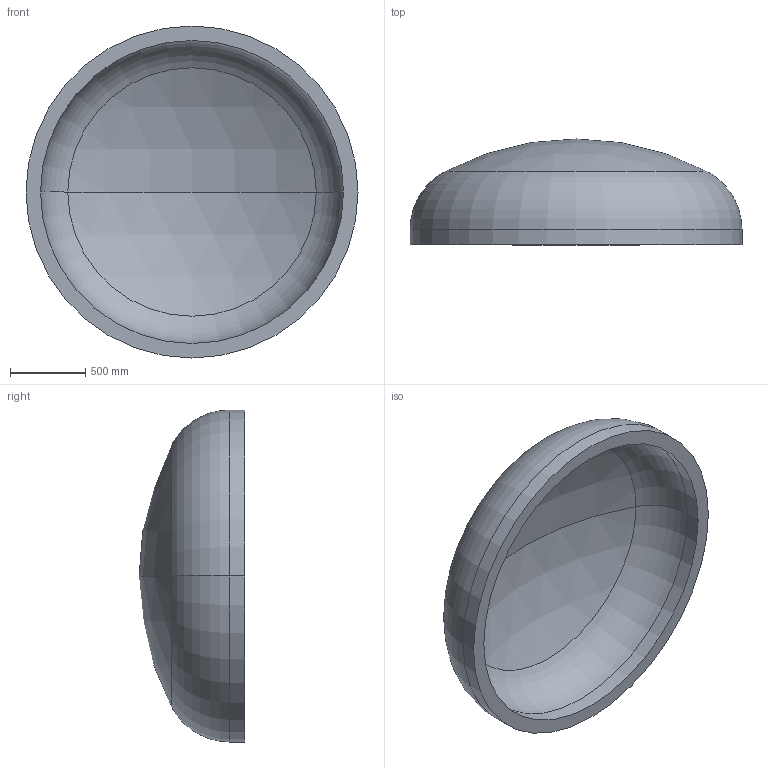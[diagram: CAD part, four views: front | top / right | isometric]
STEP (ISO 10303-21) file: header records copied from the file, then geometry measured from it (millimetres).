
FILE_DESCRIPTION (( 'STEP AP203' ), '1' );
FILE_NAME ('DIN 28013 Korbbogenform_-_Boden DIN 28013 - 2200 x 100 - I - s=96.step', '2016-07-01T14:53:00', ( '' ), ( '' ), 'SwSTEP 2.0', 'SolidWorks 2013', '' );
FILE_SCHEMA (( 'CONFIG_CONTROL_DESIGN' ));
Length unit declared in the file: millimetre
Products named in the file (1): DIN 28013 Korbbogenform_-_Boden DIN 28013 - 2200 x 100 - I - s=96
Bounding box: 2200 x 700.81 x 2200 mm (x, y, z)
Volume: 541516948 mm3; surface area: 11935453.3 mm2
Topology: 1 solids, 1 shells, 13 faces, 24 edges, 14 vertices
Faces by surface type: torus 4, cylinder 4, sphere 4, plane 1
Entity records: 407 total; most frequent: DIRECTION 72, CARTESIAN_POINT 52, ORIENTED_EDGE 48, AXIS2_PLACEMENT_3D 34, EDGE_CURVE 24, CIRCLE 20, VERTEX_POINT 14, EDGE_LOOP 14
